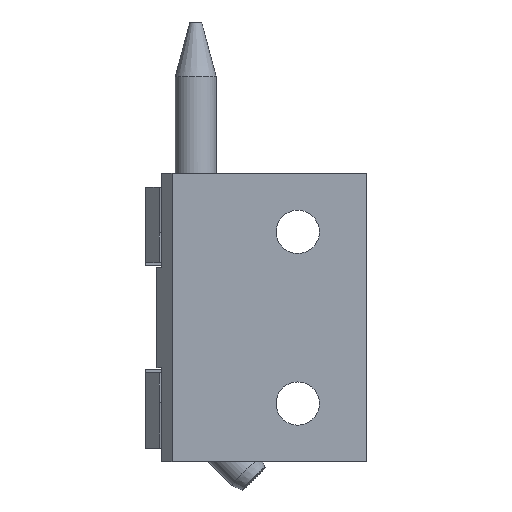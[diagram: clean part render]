
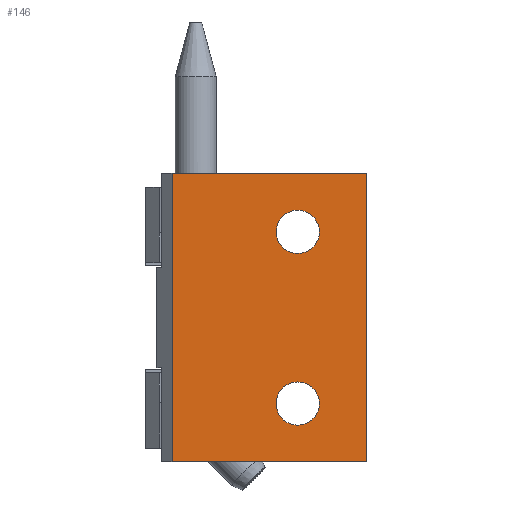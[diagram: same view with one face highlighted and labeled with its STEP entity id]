
A CAD part, left-side view. The second image highlights one B-rep face of the part: STEP entity #146.
In plain terms, the highlighted planar face has unit normal (-1, 0, 0) as drawn and (0, -1, 0) by its records, which use the part's own axes.
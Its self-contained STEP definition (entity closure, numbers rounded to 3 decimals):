
#1 = ORIENTED_EDGE ( 'NONE', *, *, #115, .F. ) ;
#99 = EDGE_CURVE ( 'NONE', #116, #113, #1040, .T. ) ;
#107 = EDGE_CURVE ( 'NONE', #835, #837, #1091, .T. ) ;
#113 = VERTEX_POINT ( 'NONE', #1076 ) ;
#115 = EDGE_CURVE ( 'NONE', #113, #116, #1075, .T. ) ;
#116 = VERTEX_POINT ( 'NONE', #1070 ) ;
#125 = EDGE_LOOP ( 'NONE', ( #126, #129, #132, #134 ) ) ;
#126 = ORIENTED_EDGE ( 'NONE', *, *, #127, .T. ) ;
#127 = EDGE_CURVE ( 'NONE', #137, #128, #1117, .T. ) ;
#128 = VERTEX_POINT ( 'NONE', #1113 ) ;
#129 = ORIENTED_EDGE ( 'NONE', *, *, #130, .T. ) ;
#130 = EDGE_CURVE ( 'NONE', #128, #131, #1112, .T. ) ;
#131 = VERTEX_POINT ( 'NONE', #1108 ) ;
#132 = ORIENTED_EDGE ( 'NONE', *, *, #133, .F. ) ;
#133 = EDGE_CURVE ( 'NONE', #140, #131, #1107, .T. ) ;
#134 = ORIENTED_EDGE ( 'NONE', *, *, #139, .T. ) ;
#137 = VERTEX_POINT ( 'NONE', #1101 ) ;
#139 = EDGE_CURVE ( 'NONE', #140, #137, #1096, .T. ) ;
#140 = VERTEX_POINT ( 'NONE', #1092 ) ;
#146 = ADVANCED_FACE ( 'NONE', ( #1147, #1146, #1145 ), #1144, .F. ) ;
#147 = EDGE_LOOP ( 'NONE', ( #148, #149 ) ) ;
#148 = ORIENTED_EDGE ( 'NONE', *, *, #107, .F. ) ;
#149 = ORIENTED_EDGE ( 'NONE', *, *, #834, .F. ) ;
#150 = EDGE_LOOP ( 'NONE', ( #151, #1 ) ) ;
#151 = ORIENTED_EDGE ( 'NONE', *, *, #99, .F. ) ;
#834 = EDGE_CURVE ( 'NONE', #837, #835, #2440, .T. ) ;
#835 = VERTEX_POINT ( 'NONE', #2489 ) ;
#837 = VERTEX_POINT ( 'NONE', #2488 ) ;
#1036 = DIRECTION ( 'NONE',  ( 0., 0., -1. ) ) ;
#1037 = DIRECTION ( 'NONE',  ( 0., -1., 0. ) ) ;
#1038 = CARTESIAN_POINT ( 'NONE',  ( 10., 0., 8.5 ) ) ;
#1039 = AXIS2_PLACEMENT_3D ( 'NONE', #1038, #1037, #1036 ) ;
#1040 = CIRCLE ( 'NONE', #1039, 3.15 ) ;
#1070 = CARTESIAN_POINT ( 'NONE',  ( 10., 0., 5.35 ) ) ;
#1071 = DIRECTION ( 'NONE',  ( 0., 0., -1. ) ) ;
#1072 = DIRECTION ( 'NONE',  ( 0., -1., 0. ) ) ;
#1073 = CARTESIAN_POINT ( 'NONE',  ( 10., 0., 8.5 ) ) ;
#1074 = AXIS2_PLACEMENT_3D ( 'NONE', #1073, #1072, #1071 ) ;
#1075 = CIRCLE ( 'NONE', #1074, 3.15 ) ;
#1076 = CARTESIAN_POINT ( 'NONE',  ( 10., 0., 11.65 ) ) ;
#1087 = DIRECTION ( 'NONE',  ( 0., 0., -1. ) ) ;
#1088 = DIRECTION ( 'NONE',  ( 0., -1., 0. ) ) ;
#1089 = CARTESIAN_POINT ( 'NONE',  ( 10., 0., 33.5 ) ) ;
#1090 = AXIS2_PLACEMENT_3D ( 'NONE', #1089, #1088, #1087 ) ;
#1091 = CIRCLE ( 'NONE', #1090, 3.15 ) ;
#1092 = CARTESIAN_POINT ( 'NONE',  ( 0., 0., 42. ) ) ;
#1093 = DIRECTION ( 'NONE',  ( 0., 0., -1. ) ) ;
#1094 = VECTOR ( 'NONE', #1093, 1000. ) ;
#1095 = CARTESIAN_POINT ( 'NONE',  ( 0., 0., 42. ) ) ;
#1096 = LINE ( 'NONE', #1095, #1094 ) ;
#1101 = CARTESIAN_POINT ( 'NONE',  ( 0., 0., 0. ) ) ;
#1104 = DIRECTION ( 'NONE',  ( 1., 0., 0. ) ) ;
#1105 = VECTOR ( 'NONE', #1104, 1000. ) ;
#1106 = CARTESIAN_POINT ( 'NONE',  ( 0., 0., 42. ) ) ;
#1107 = LINE ( 'NONE', #1106, #1105 ) ;
#1108 = CARTESIAN_POINT ( 'NONE',  ( 28.3, 0., 42. ) ) ;
#1109 = DIRECTION ( 'NONE',  ( 0., 0., 1. ) ) ;
#1110 = VECTOR ( 'NONE', #1109, 1000. ) ;
#1111 = CARTESIAN_POINT ( 'NONE',  ( 28.3, 0., 42. ) ) ;
#1112 = LINE ( 'NONE', #1111, #1110 ) ;
#1113 = CARTESIAN_POINT ( 'NONE',  ( 28.3, 0., 0. ) ) ;
#1114 = DIRECTION ( 'NONE',  ( 1., 0., 0. ) ) ;
#1115 = VECTOR ( 'NONE', #1114, 1000. ) ;
#1116 = CARTESIAN_POINT ( 'NONE',  ( 0., 0., 0. ) ) ;
#1117 = LINE ( 'NONE', #1116, #1115 ) ;
#1140 = DIRECTION ( 'NONE',  ( 0., 0., 1. ) ) ;
#1141 = DIRECTION ( 'NONE',  ( 0., 1., 0. ) ) ;
#1142 = AXIS2_PLACEMENT_3D ( 'NONE', #1143, #1141, #1140 ) ;
#1143 = CARTESIAN_POINT ( 'NONE',  ( 0., 0., 42. ) ) ;
#1144 = PLANE ( 'NONE',  #1142 ) ;
#1145 = FACE_OUTER_BOUND ( 'NONE', #125, .T. ) ;
#1146 = FACE_BOUND ( 'NONE', #150, .T. ) ;
#1147 = FACE_BOUND ( 'NONE', #147, .T. ) ;
#2440 = CIRCLE ( 'NONE', #2493, 3.15 ) ;
#2488 = CARTESIAN_POINT ( 'NONE',  ( 10., 0., 36.65 ) ) ;
#2489 = CARTESIAN_POINT ( 'NONE',  ( 10., 0., 30.35 ) ) ;
#2490 = DIRECTION ( 'NONE',  ( 0., 0., -1. ) ) ;
#2491 = DIRECTION ( 'NONE',  ( 0., -1., 0. ) ) ;
#2492 = CARTESIAN_POINT ( 'NONE',  ( 10., 0., 33.5 ) ) ;
#2493 = AXIS2_PLACEMENT_3D ( 'NONE', #2492, #2491, #2490 ) ;
